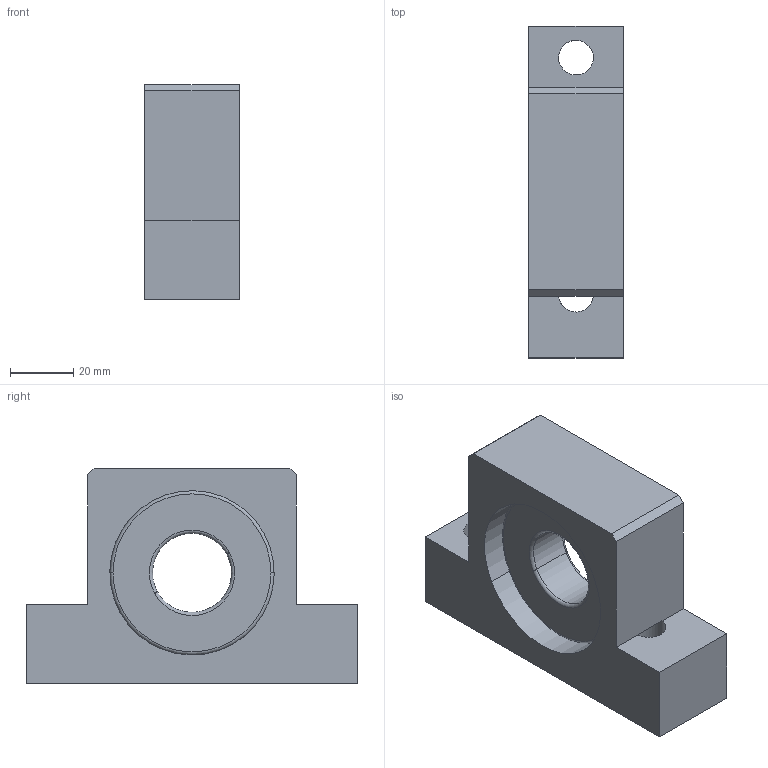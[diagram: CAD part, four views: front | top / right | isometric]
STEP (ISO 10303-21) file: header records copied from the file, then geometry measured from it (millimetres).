
FILE_DESCRIPTION(('CATIA V5 STEP Exchange'),'2;1');
FILE_NAME('D:\서포트 완성도면\EF\EF25.stp','2014-04-07T01:29:21+00:00',('none'),('none'),'CATIA Version 5 Release 18 GA (IN-10)','CATIA V5 STEP AP203','none');
FILE_SCHEMA(('CONFIG_CONTROL_DESIGN'));
Length unit declared in the file: millimetre
Products named in the file (1): EF25
Assembly tree (2 placements, depth 2):
  EF25
    #56
    #656
Bounding box: 30 x 105 x 68 mm (x, y, z)
Volume: 119695.7 mm3; surface area: 30021.5 mm2
Topology: 2 solids, 2 shells, 33 faces, 80 edges, 51 vertices
Faces by surface type: plane 15, cylinder 10, torus 8
Entity records: 1004 total; most frequent: CARTESIAN_POINT 161, ORIENTED_EDGE 160, DIRECTION 140, EDGE_CURVE 80, AXIS2_PLACEMENT_3D 68, VERTEX_POINT 50, VECTOR 42, LINE 42
